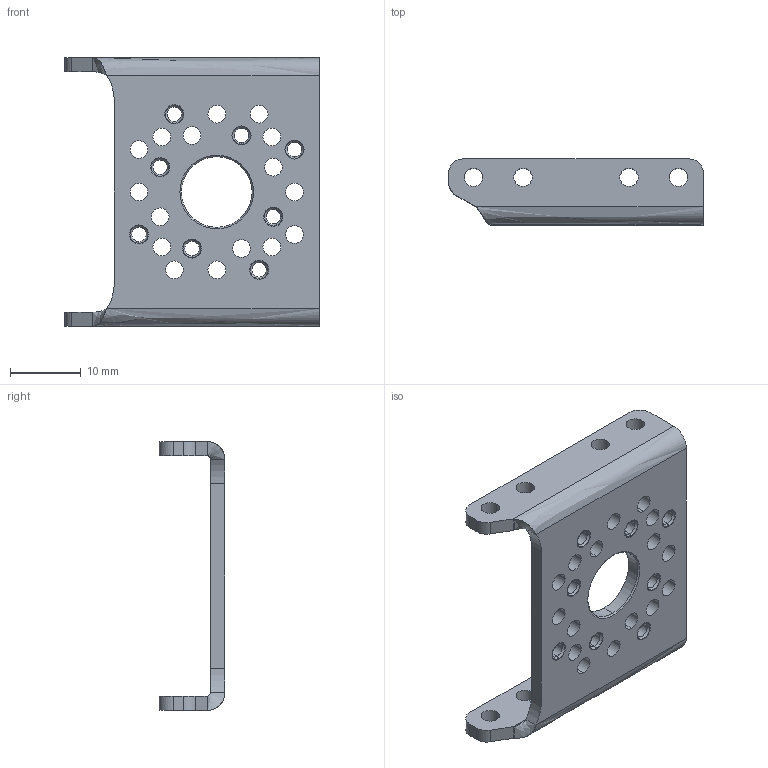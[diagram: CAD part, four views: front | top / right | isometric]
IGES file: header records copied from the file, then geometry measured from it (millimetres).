
Start section:  PTC IGES file: fr05_s101.igs
Global section: file name: fr05_s101.igs; native system: Pro/ENGINEER by Parametric Technology Corporation; preprocessor: 2009060; author: JANG WOOK; organization: Unknown; date: 20100202.170129; units: millimetre
Bounding box: 36 x 9.3 x 38 mm (x, y, z)
Surface area: 4179.1 mm2 (no closed solid volume)
Topology: 0 solids, 0 shells, 150 faces, 1140 edges, 1348 vertices
Faces by surface type: revolution 128, bspline 22
